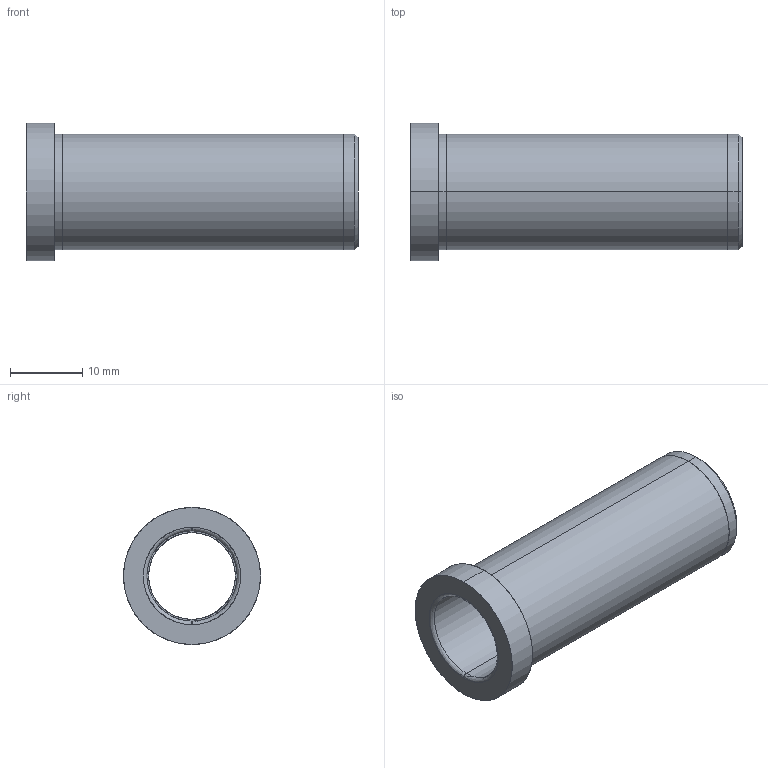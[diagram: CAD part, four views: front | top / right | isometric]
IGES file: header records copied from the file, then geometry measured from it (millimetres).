
Start section: SolidWorks IGES file using analytic representation for surfaces
Global section: file name: C:\Documents and Settings\kalite-mail\Desktop\IGS\D20\D20 - 12x46.IGS; native system: SolidWorks 2008; preprocessor: SolidWorks 2008; author: kalite-mail; date: 080617.112047; units: millimetre
Bounding box: 46 x 19 x 19 mm (x, y, z)
Surface area: 4412.8 mm2 (no closed solid volume)
Topology: 0 solids, 0 shells, 24 faces, 456 edges, 456 vertices
Faces by surface type: revolution 14, bspline 10
